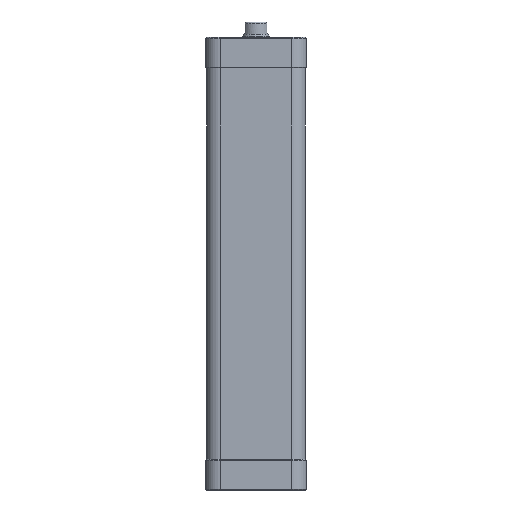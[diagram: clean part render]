
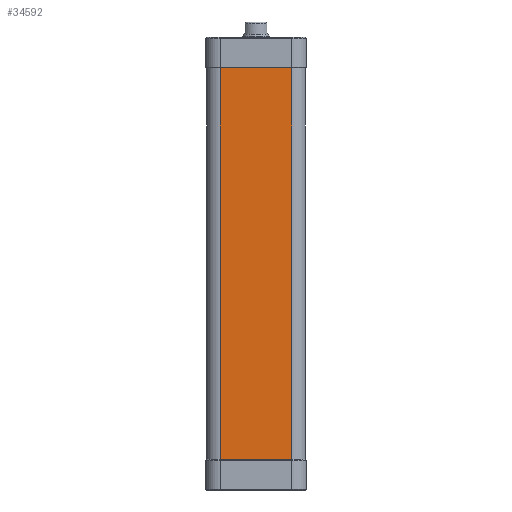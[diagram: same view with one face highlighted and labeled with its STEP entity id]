
A CAD part, front view. The second image highlights one B-rep face of the part: STEP entity #34592.
In plain terms, the highlighted planar face has unit normal (0, -1, 0).
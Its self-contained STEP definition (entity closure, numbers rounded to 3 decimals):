
#340 = VECTOR ( 'NONE', #21738, 1000. ) ;
#833 = CARTESIAN_POINT ( 'NONE',  ( -16.25, -22.5, 18.2 ) ) ;
#1723 = CARTESIAN_POINT ( 'NONE',  ( -16.25, -22.5, -160. ) ) ;
#2390 = ORIENTED_EDGE ( 'NONE', *, *, #14610, .T. ) ;
#3256 = DIRECTION ( 'NONE',  ( 1., 0., 0. ) ) ;
#4881 = CARTESIAN_POINT ( 'NONE',  ( -16.25, -22.5, -160. ) ) ;
#7573 = PLANE ( 'NONE',  #24381 ) ;
#7823 = DIRECTION ( 'NONE',  ( -1., 0., 0. ) ) ;
#7878 = EDGE_CURVE ( 'NONE', #23327, #22622, #24274, .T. ) ;
#11980 = CARTESIAN_POINT ( 'NONE',  ( 16.25, -22.5, 18.2 ) ) ;
#13147 = CARTESIAN_POINT ( 'NONE',  ( 16.25, -22.5, 18.2 ) ) ;
#13802 = CARTESIAN_POINT ( 'NONE',  ( -16.25, -22.5, 18.2 ) ) ;
#14610 = EDGE_CURVE ( 'NONE', #23327, #26003, #16429, .T. ) ;
#16429 = LINE ( 'NONE', #833, #30015 ) ;
#19474 = FACE_OUTER_BOUND ( 'NONE', #33875, .T. ) ;
#19708 = DIRECTION ( 'NONE',  ( 0., 0., -1. ) ) ;
#19736 = ORIENTED_EDGE ( 'NONE', *, *, #27729, .T. ) ;
#20799 = CARTESIAN_POINT ( 'NONE',  ( -16.25, -22.5, 18.2 ) ) ;
#21738 = DIRECTION ( 'NONE',  ( 0., 0., -1. ) ) ;
#21911 = LINE ( 'NONE', #13147, #340 ) ;
#22622 = VERTEX_POINT ( 'NONE', #11980 ) ;
#22769 = VECTOR ( 'NONE', #23221, 1000. ) ;
#23221 = DIRECTION ( 'NONE',  ( 1., 0., 0. ) ) ;
#23327 = VERTEX_POINT ( 'NONE', #33643 ) ;
#23872 = DIRECTION ( 'NONE',  ( 0., 1., 0. ) ) ;
#24274 = LINE ( 'NONE', #13802, #31503 ) ;
#24381 = AXIS2_PLACEMENT_3D ( 'NONE', #20799, #23872, #7823 ) ;
#25667 = ORIENTED_EDGE ( 'NONE', *, *, #7878, .F. ) ;
#26003 = VERTEX_POINT ( 'NONE', #4881 ) ;
#27729 = EDGE_CURVE ( 'NONE', #26003, #33362, #32108, .T. ) ;
#30015 = VECTOR ( 'NONE', #19708, 1000. ) ;
#31503 = VECTOR ( 'NONE', #3256, 1000. ) ;
#32108 = LINE ( 'NONE', #1723, #22769 ) ;
#32882 = EDGE_CURVE ( 'NONE', #22622, #33362, #21911, .T. ) ;
#33362 = VERTEX_POINT ( 'NONE', #33577 ) ;
#33577 = CARTESIAN_POINT ( 'NONE',  ( 16.25, -22.5, -160. ) ) ;
#33589 = ORIENTED_EDGE ( 'NONE', *, *, #32882, .F. ) ;
#33643 = CARTESIAN_POINT ( 'NONE',  ( -16.25, -22.5, 18.2 ) ) ;
#33875 = EDGE_LOOP ( 'NONE', ( #19736, #33589, #25667, #2390 ) ) ;
#34592 = ADVANCED_FACE ( 'NONE', ( #19474 ), #7573, .F. ) ;
